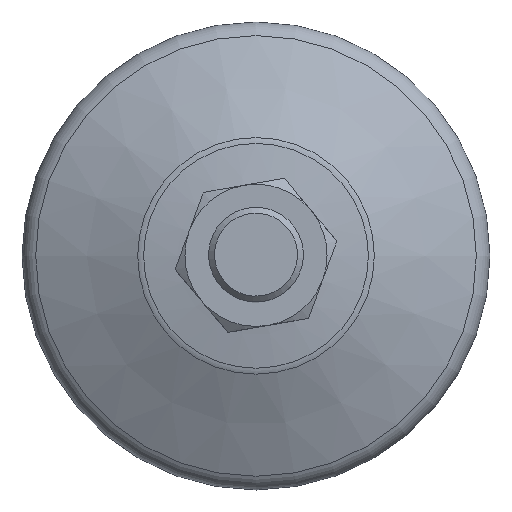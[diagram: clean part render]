
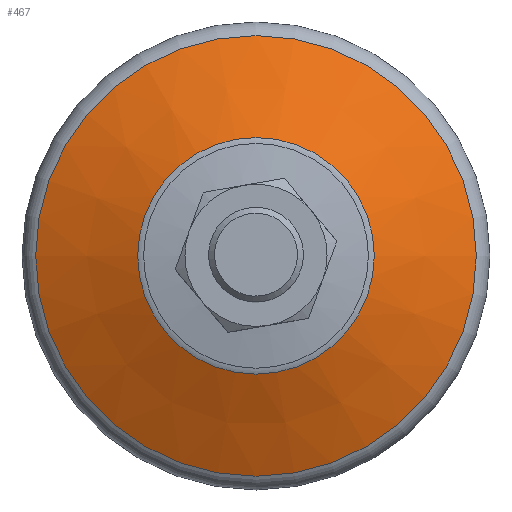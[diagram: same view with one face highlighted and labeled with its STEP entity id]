
A CAD part, top view. The second image highlights one B-rep face of the part: STEP entity #467.
In plain terms, the highlighted conical face has half-angle 65 degrees and reference radius 19.971 mm.
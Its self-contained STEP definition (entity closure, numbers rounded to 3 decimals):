
#467=ADVANCED_FACE('',(#779,#780),#781,.T.);
#779=FACE_BOUND('',#1103,.T.);
#780=FACE_OUTER_BOUND('',#1104,.T.);
#781=CONICAL_SURFACE('',#1105,19.971,1.134);
#1103=EDGE_LOOP('',(#1708));
#1104=EDGE_LOOP('',(#1709));
#1105=AXIS2_PLACEMENT_3D('',#1710,#1711,#1712);
#1708=ORIENTED_EDGE('',*,*,#1974,.T.);
#1709=ORIENTED_EDGE('',*,*,#1970,.F.);
#1710=CARTESIAN_POINT('',(0.0,0.0,15.707));
#1711=DIRECTION('',(-0.0,0.0,-1.0));
#1712=DIRECTION('',(-1.0,0.0,0.0));
#1970=EDGE_CURVE('',#2301,#2301,#2302,.T.);
#1974=EDGE_CURVE('',#2307,#2307,#2308,.T.);
#2301=VERTEX_POINT('',#3136);
#2302=CIRCLE('',#3137,37.19);
#2307=VERTEX_POINT('',#3142);
#2308=CIRCLE('',#3143,19.971);
#3136=CARTESIAN_POINT('',(-37.19,0.0,7.677));
#3137=AXIS2_PLACEMENT_3D('',#3385,#3386,#3387);
#3142=CARTESIAN_POINT('',(-19.971,0.0,15.707));
#3143=AXIS2_PLACEMENT_3D('',#3391,#3392,#3393);
#3385=CARTESIAN_POINT('',(0.0,0.0,7.677));
#3386=DIRECTION('',(0.0,0.0,-1.0));
#3387=DIRECTION('',(-1.0,0.0,0.0));
#3391=CARTESIAN_POINT('',(0.0,0.0,15.707));
#3392=DIRECTION('',(0.0,0.0,-1.0));
#3393=DIRECTION('',(-1.0,0.0,0.0));
